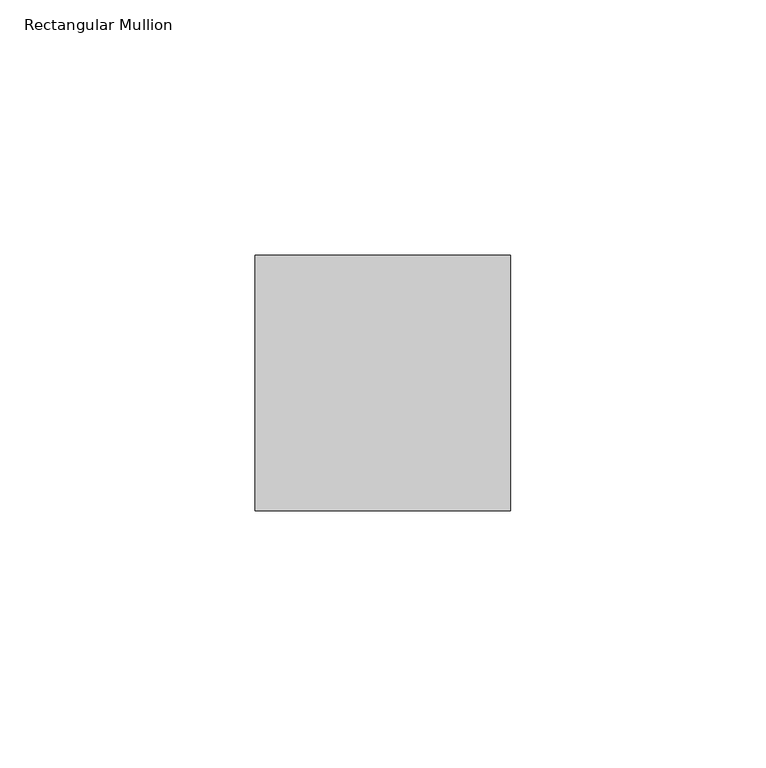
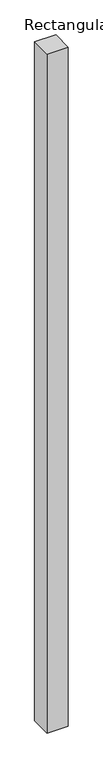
"""IFC4 building model written with IfcOpenShell, lengths in millimetres: member geometry, Rectangular Mullion : Mullion_Curtain Wall_Generic Showcase_50x50mm."""

import ifcopenshell
import ifcopenshell.guid

model = None  # the IFC model being written
_history = None  # IfcOwnerHistory: only IFC2X3 demands one
_inside = {}  # id of a spatial element -> (the spatial element, [elements in it])
_under = {}  # id of a project, library or spatial element -> (it, [spatial elements below it])
_declared = {}  # id of a project -> (the project, [libraries it declares])
_typed = {}  # id of a type object -> (the type object, [elements of that type])
_made_of = {}  # id of a material, layer set ... -> (it, [elements and type objects made of it])


def new_model(schema):
    """Start an empty IFC model of exactly this schema.

    Asked for "IFC4X3", IfcOpenShell would pick the latest addendum, in which some entities
    have other attributes; the version numbers below select the first issue.
    IFC2X3 requires an IfcOwnerHistory on every rooted entity: one is made here for all.
    """
    global model, _history
    if schema == "IFC4X3":
        model = ifcopenshell.file(schema_version=(4, 3, 0, 0))
    else:
        model = ifcopenshell.file(schema=schema)
    _inside.clear()
    _under.clear()
    _declared.clear()
    _typed.clear()
    _made_of.clear()
    _history = None
    if model.schema == "IFC2X3":
        org = make("IfcOrganization", Name="unknown")
        user = make(
            "IfcPersonAndOrganization",
            ThePerson=make("IfcPerson", FamilyName="unknown"),
            TheOrganization=org,
        )
        app = make(
            "IfcApplication",
            ApplicationDeveloper=org,
            Version="unknown",
            ApplicationFullName="unknown",
            ApplicationIdentifier="unknown",
        )
        _history = make(
            "IfcOwnerHistory",
            OwningUser=user,
            OwningApplication=app,
            ChangeAction="ADDED",
            CreationDate=0,
        )
    return model


def make(cls, **values):
    """One entity of the class cls with the attributes given. An attribute that is None is left unset."""
    return model.create_entity(
        cls, **{name: value for name, value in values.items() if value is not None}
    )


def rooted(cls, **values):
    """An entity with a GlobalId (a new one), such as an element, a storey or a relation."""
    return make(cls, GlobalId=ifcopenshell.guid.new(), OwnerHistory=_history, **values)


def si_unit(unit_type, name, prefix=None):
    """IfcSIUnit, for example si_unit("LENGTHUNIT", "METRE", prefix="MILLI")."""
    return make("IfcSIUnit", UnitType=unit_type, Prefix=prefix, Name=name)


def assignment(units):
    """IfcUnitAssignment: the units of a project."""
    return None if units is None else make("IfcUnitAssignment", Units=units)


def point(xyz):
    """IfcCartesianPoint."""
    return None if xyz is None else make("IfcCartesianPoint", Coordinates=xyz)


def direction(xyz):
    """IfcDirection."""
    return None if xyz is None else make("IfcDirection", DirectionRatios=xyz)


def frame(location, z_axis=None, x_axis=None):
    """IfcAxis2Placement3D, a coordinate frame: its origin and axes. An axis left out is left unset."""
    return make(
        "IfcAxis2Placement3D",
        Location=point(location),
        Axis=direction(z_axis),
        RefDirection=direction(x_axis),
    )


def origin():
    """The frame at (0, 0, 0) with its axes left unset."""
    return frame((0.0, 0.0, 0.0))


def place(relative_to, where):
    """IfcLocalPlacement: puts the frame where relative to a parent placement (None: the world)."""
    return make(
        "IfcLocalPlacement", PlacementRelTo=relative_to, RelativePlacement=where
    )


def context(
    kind, dimensions, precision=None, world=None, true_north=None, identifier=None
):
    """IfcGeometricRepresentationContext, for example the 3D "Model" context."""
    return make(
        "IfcGeometricRepresentationContext",
        ContextIdentifier=identifier,
        ContextType=kind,
        CoordinateSpaceDimension=dimensions,
        Precision=precision,
        WorldCoordinateSystem=world,
        TrueNorth=true_north,
    )


def project(units=None, contexts=None):
    """IfcProject with its units and contexts."""
    return rooted(
        "IfcProject",
        Name="project",
        RepresentationContexts=contexts,
        UnitsInContext=assignment(units),
    )


def spatial(cls, under=None, at=None, **own):
    """A site, building, storey or space (cls), placed at a placement, below another one or the project."""
    s = rooted(cls, ObjectPlacement=at, **own)
    if under is not None:
        _under.setdefault(under.id(), (under, []))[1].append(s)
    return s


def polyline(points):
    """IfcPolyline through the points."""
    return make("IfcPolyline", Points=[point(p) for p in points])


def outline(outer, holes=None, kind="AREA"):
    """IfcArbitraryClosedProfileDef: a profile drawn as a closed curve; with holes, ...WithVoids."""
    if holes is None:
        return make("IfcArbitraryClosedProfileDef", ProfileType=kind, OuterCurve=outer)
    return make(
        "IfcArbitraryProfileDefWithVoids",
        ProfileType=kind,
        OuterCurve=outer,
        InnerCurves=holes,
    )


def extrude(swept, where, along, depth):
    """IfcExtrudedAreaSolid: the profile swept, set in the frame where, extruded along a direction by depth."""
    return make(
        "IfcExtrudedAreaSolid",
        SweptArea=swept,
        Position=where,
        ExtrudedDirection=direction(along),
        Depth=depth,
    )


def shape(context_of_items, identifier, shape_type, items):
    """IfcShapeRepresentation: the items that make up one representation, for example the "Body"."""
    return make(
        "IfcShapeRepresentation",
        ContextOfItems=context_of_items,
        RepresentationIdentifier=identifier,
        RepresentationType=shape_type,
        Items=items,
    )


def source(mapping_origin, context_of_items, identifier, shape_type, items):
    """IfcRepresentationMap: a shape defined once, which mapped items show again and again."""
    return make(
        "IfcRepresentationMap",
        MappingOrigin=mapping_origin,
        MappedRepresentation=shape(context_of_items, identifier, shape_type, items),
    )


def transform(
    local_origin,
    x_axis=None,
    y_axis=None,
    z_axis=None,
    scale=None,
    scale2=None,
    scale3=None,
    uniform=True,
):
    """IfcCartesianTransformationOperator3D, or its non-uniform kind. x_axis, y_axis, z_axis: its Axis1, 2, 3."""
    if uniform:
        return make(
            "IfcCartesianTransformationOperator3D",
            Axis1=direction(x_axis),
            Axis2=direction(y_axis),
            LocalOrigin=point(local_origin),
            Scale=scale,
            Axis3=direction(z_axis),
        )
    return make(
        "IfcCartesianTransformationOperator3DnonUniform",
        Axis1=direction(x_axis),
        Axis2=direction(y_axis),
        LocalOrigin=point(local_origin),
        Scale=scale,
        Axis3=direction(z_axis),
        Scale2=scale2,
        Scale3=scale3,
    )


def mapped(mapping_source, mapping_target):
    """IfcMappedItem: shows the shape of a source again, moved by a transform."""
    return make(
        "IfcMappedItem", MappingSource=mapping_source, MappingTarget=mapping_target
    )


def made_of(thing, what):
    """Note that an element or type object is made of a material, layer set ...; save() writes the relation."""
    if what is not None:
        _made_of.setdefault(what.id(), (what, []))[1].append(thing)
    return thing


def element(
    cls,
    number,
    at=None,
    inside=None,
    cuts=None,
    type_object=None,
    material=None,
    context=None,
    identifier="Body",
    shape_type=None,
    held_by="IfcProductDefinitionShape",
    body=None,
    shapes=None,
    **own,
):
    """One element of the class cls, such as IfcWall. Its Tag is "e" and its number.

    at: its placement. inside: the storey or other place that contains it. cuts: it is an
    opening in that element (IfcRelVoidsElement). A single representation is given by context,
    identifier, shape_type and body (its items); several are given by shapes. held_by: the class
    of the entity that holds the representations. save() writes the other relations.
    """
    e = rooted(cls, Tag="e%d" % number, ObjectPlacement=at, **own)
    if body is not None:
        shapes = [shape(context, identifier, shape_type, body)]
    if shapes is not None:
        e.Representation = make(held_by, Representations=shapes)
    if inside is not None:
        _inside.setdefault(inside.id(), (inside, []))[1].append(e)
    if cuts is not None:
        rooted(
            "IfcRelVoidsElement", RelatingBuildingElement=cuts, RelatedOpeningElement=e
        )
    if type_object is not None:
        _typed.setdefault(type_object.id(), (type_object, []))[1].append(e)
    return made_of(e, material)


def aggregate(whole, parts):
    """IfcRelAggregates: a whole, such as a stair, and the parts it consists of."""
    return rooted("IfcRelAggregates", RelatingObject=whole, RelatedObjects=parts)


def save(model, path):
    """Write the relations noted so far, then the file.

    IfcRelAggregates (storeys below a building ...), IfcRelContainedInSpatialStructure (elements
    in a storey), IfcRelDefinesByType, IfcRelAssociatesMaterial and IfcRelDeclares: one each for
    every whole, place, type object, material and project.
    """
    for whole, parts in _under.values():
        aggregate(whole, parts)
    for where, things in _inside.values():
        rooted(
            "IfcRelContainedInSpatialStructure",
            RelatedElements=things,
            RelatingStructure=where,
        )
    for kind, things in _typed.values():
        rooted("IfcRelDefinesByType", RelatedObjects=things, RelatingType=kind)
    for what, things in _made_of.values():
        rooted("IfcRelAssociatesMaterial", RelatedObjects=things, RelatingMaterial=what)
    for by, libraries in _declared.values():
        rooted("IfcRelDeclares", RelatingContext=by, RelatedDefinitions=libraries)
    model.write(path)


def rectangular_mullion_f93325dd(model_context):
    return source(origin(), model_context, "Body", "SweptSolid", [
        extrude(outline(polyline([(25.0, 0.0), (25.0, -50.0), (-25.0, -50.0), (-25.0, 0.0), (25.0, 0.0)])), frame((0.0, 0.0, -1694.45347), z_axis=(0.0, 0.0, 1.0), x_axis=(1.0, 0.0, 0.0)), (0.0, 0.0, 1.0), 1694.45347),
    ])


if __name__ == "__main__":
    model = new_model("IFC4")
    model_context = context("Model", 3, world=origin())
    ifc_project = project(units=[si_unit("LENGTHUNIT", "METRE", prefix="MILLI")], contexts=[model_context])
    site = spatial("IfcSite", under=ifc_project)
    building = spatial("IfcBuilding", under=site)
    placement = place(None, origin())
    rectangular_mullion_shape = rectangular_mullion_f93325dd(model_context)
    element("IfcMember", 1, ObjectType="Rectangular Mullion : Mullion_Curtain Wall_Generic Showcase_50x50mm", at=placement, inside=building, context=model_context, shape_type="MappedRepresentation", body=[
        mapped(rectangular_mullion_shape, transform((0.0, 0.0, 0.0), x_axis=(1.0, 0.0, 0.0), y_axis=(0.0, 1.0, 0.0), z_axis=(0.0, 0.0, 1.0))),
    ])
    save(model, "model.ifc")
